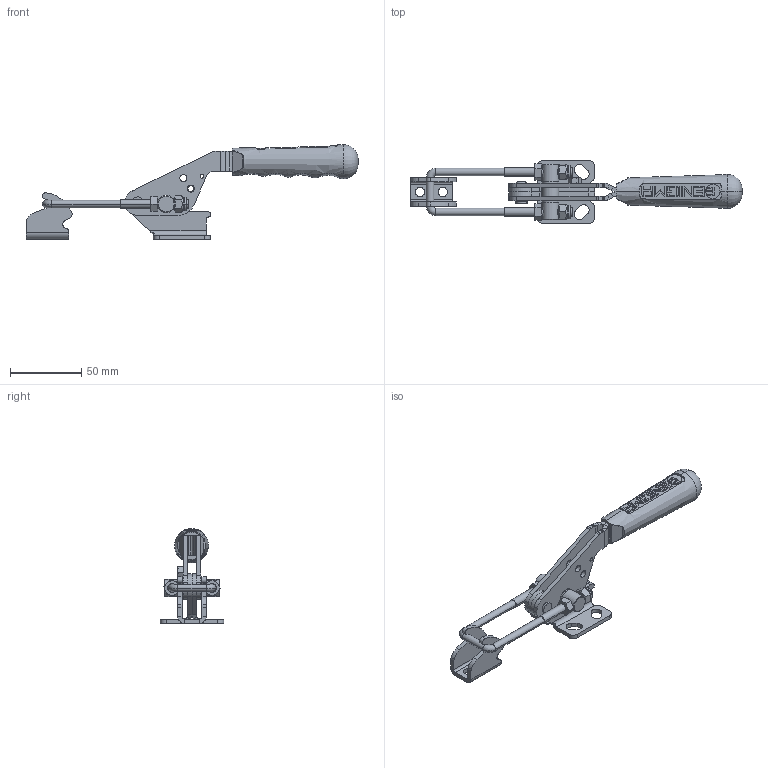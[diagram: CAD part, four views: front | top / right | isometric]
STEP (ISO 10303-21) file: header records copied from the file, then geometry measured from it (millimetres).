
FILE_DESCRIPTION (( 'STEP AP203' ), '1' );
FILE_NAME ('13006_Y.STEP', '2022-11-30T07:37:31', ( '' ), ( '' ), 'SwSTEP 2.0', 'SolidWorks 2023', '' );
FILE_SCHEMA (( 'CONFIG_CONTROL_DESIGN' ));
Length unit declared in the file: millimetre
Products named in the file (13): M6x50_U_KANCA_Varsayılan; M6_KK; 13206_ALMANYA_Y_GÖVDE_10.08.22-16.56; 13006_YENİ_HAREKET_KOLU_29.11.22-16,36; M6_FİBERLİ_SOMUN; M5 Somun_Varsayılan; Mirror13206_ALMANYA_Y_GÖVDE_10.08.22-16.56; Mirror13006_YENİ_HAREKET_KOLU_29.11.22-16,36; M6_SOMUN; Ø12xM6_U_KANCA_MİLİ_OTOMATI_Varsayılan; 5x17_PERÇİN_Varsayılan; 13006_Y; C90_Yeni_Tutamak_Varsayılan
Assembly tree (14 placements, depth 2):
  13006_Y
    13206_ALMANYA_Y_GÖVDE_10.08.22-16.56
    C90_Yeni_Tutamak_Varsayılan
    M6_KK
    Mirror13206_ALMANYA_Y_GÖVDE_10.08.22-16.56
    Ø12xM6_U_KANCA_MİLİ_OTOMATI_Varsayılan
    5x17_PERÇİN_Varsayılan
    M6_FİBERLİ_SOMUN  x2
    M6_SOMUN  x2
    M5 Somun_Varsayılan
    13006_YENİ_HAREKET_KOLU_29.11.22-16,36
    Mirror13006_YENİ_HAREKET_KOLU_29.11.22-16,36
    M6x50_U_KANCA_Varsayılan
Bounding box: 232.47 x 44.39 x 66.23 mm (x, y, z)
Volume: 64116.4 mm3; surface area: 43432.7 mm2
Topology: 14 solids, 14 shells, 625 faces, 1580 edges, 999 vertices
Faces by surface type: plane 303, cylinder 200, cone 62, torus 30, bspline 26, sphere 4
Entity records: 27690 total; most frequent: CARTESIAN_POINT 12349, ORIENTED_EDGE 2920, DIRECTION 2894, EDGE_CURVE 1460, AXIS2_PLACEMENT_3D 1041, VERTEX_POINT 927, LINE 812, VECTOR 812
